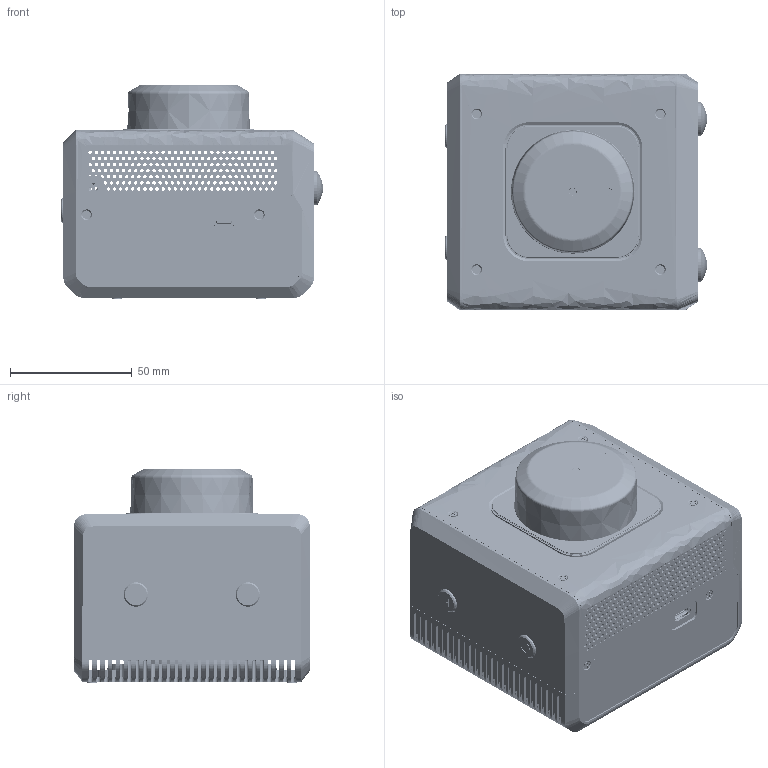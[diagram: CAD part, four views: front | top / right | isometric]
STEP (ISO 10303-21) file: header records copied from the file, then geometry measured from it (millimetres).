
FILE_DESCRIPTION(/* description */ (''),/* implementation_level */ '2;1');
FILE_NAME(/* name */ 'AURORA_V1.0_20240927.stp',/* time_stamp */ '2024-09-27T15:10:48+08:00',/* author */ (''),/* organization */ (''),/* preprocessor_version */ 'ST-DEVELOPER v16',/* originating_system */ 'SIEMENS PLM Software NX 11.0',/* authorisation */ '');
FILE_SCHEMA (('AUTOMOTIVE_DESIGN { 1 0 10303 214 3 1 1 1 }'));
Products named in the file (1): davi77906AA8atr9
Bounding box: 107.7 x 97.1 x 87.9 mm (x, y, z)
Volume: 102347.4 mm3; surface area: 146815.7 mm2
Topology: 38 solids, 2286 shells, 8045 faces, 29369 edges, 23851 vertices
Faces by surface type: plane 3864, cylinder 3842, cone 146, bspline 114, sphere 41, torus 20, extrusion 16, revolution 2
Full cylindrical faces by diameter (mm): 0.7 x4, 1.25 x3, 1.3 x36, 1.4 x4, 1.5 x4, 1.6 x124, 2 x2, 2.05 x4, 2.1 x3, 2.2 x2, 2.4 x18, 3 x4, 3.3 x3, 3.4 x2, 3.5 x16, 3.6 x2, 4 x4, 4.05 x4, 4.5 x1, 5 x2, 5.6 x2, 6 x2, 6.2 x4, 6.35 x1, 7 x3, 8 x2, 9 x1, 9.4 x2, 10 x2, 10.206 x4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
Entity records: 429598 total; most frequent: CARTESIAN_POINT 170036, DIRECTION 47019, ORIENTED_EDGE 44225, EDGE_CURVE 28592, VERTEX_POINT 23465, VECTOR 17193, LINE 17177, AXIS2_PLACEMENT_3D 14912
